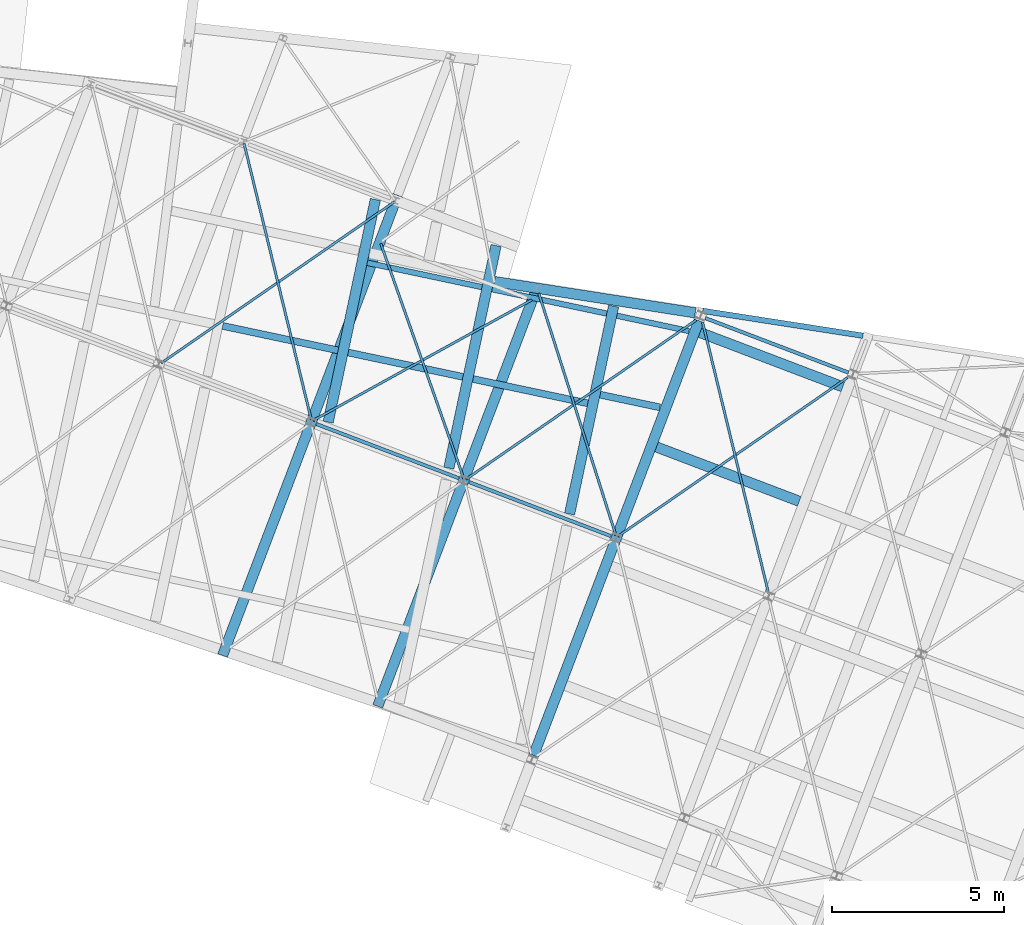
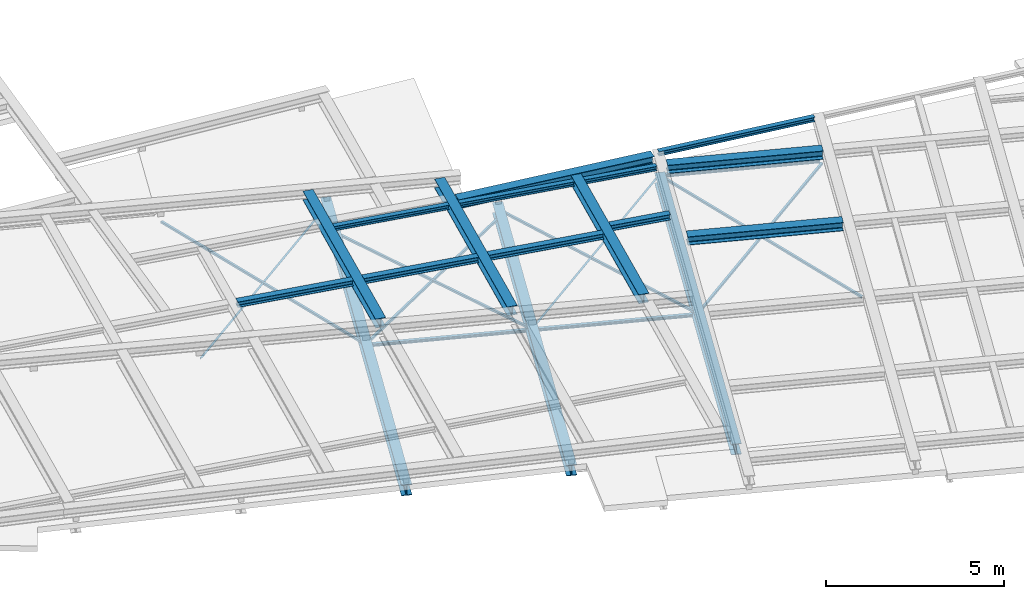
# One storey, part 12 of 21: 28 beams.
"""IFC2X3 building model written with IfcOpenShell, lengths in millimetres."""

from ifc_helpers import new_model, entity, si_unit, converted_unit, derived_unit, direction, frame, frame_2d, origin, place, context, subcontext, project, spatial, polyline, circle_curve, parameter, trimmed, segment, composite_curve, i_section, outline, extrude, material, type_object, element, save


model = new_model("IFC2X3")

# Units and contexts
model_context = context("Model", 3, precision=0.01, world=origin(), true_north=direction((6.123233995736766e-17, 1.0)))
body_context = subcontext(model_context, "Body", "Model", "MODEL_VIEW")
ifc_project = project(units=[si_unit("LENGTHUNIT", "METRE", prefix="MILLI"), converted_unit("PLANEANGLEUNIT", "DEGREE", entity("IfcPlaneAngleMeasure", 0.017453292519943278), si_unit("PLANEANGLEUNIT", "RADIAN"), dimensions=[0, 0, 0, 0, 0, 0, 0]), si_unit("AREAUNIT", "SQUARE_METRE"), derived_unit("THERMALTRANSMITTANCEUNIT", [(si_unit("MASSUNIT", "GRAM", prefix="KILO"), 1), (si_unit("THERMODYNAMICTEMPERATUREUNIT", "KELVIN"), -1), (si_unit("TIMEUNIT", "SECOND"), -3)])], contexts=[model_context])

# Site, building, storey
site_placement = place(None, frame((-72937.88054949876, 11621.45624098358, 0.0), z_axis=(0.0, 0.0, 1.0), x_axis=(0.9346418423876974, -0.35559053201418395, 0.0)))
site = spatial("IfcSite", under=ifc_project, at=site_placement, Name="Default", CompositionType="ELEMENT")
building_placement = place(site_placement, origin())
building = spatial("IfcBuilding", under=site, at=building_placement, CompositionType="ELEMENT")
storey_placement = place(building_placement, frame((0.0, 0.0, 4250.0)))
storey = spatial("IfcBuildingStorey", under=building, at=storey_placement, Name="01 eerste verdieping", CompositionType="ELEMENT", Elevation=4250.0)

# Beams
ifc_material_1 = material(Name="metaal_staal_generiek")
beam_type_1 = type_object("IfcBeamType", Name="DIE38", PredefinedType="BEAM")
beam_1_placement = place(storey_placement, frame((38650.0, 15000.0, -80.0), z_axis=(0.0, 0.0, 1.0), x_axis=(0.0, 1.0, 0.0)))
element("IfcBeam", 1, at=beam_1_placement, inside=storey, type_object=beam_type_1, material=ifc_material_1, Name="28.11_Stalen balk HEA", ObjectType="stalen balk HEA profiel", context=body_context, shape_type="SweptSolid", body=[
    extrude(i_section(OverallWidth=300.0000000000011, OverallDepth=369.9999999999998, WebThickness=11.00000000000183, FlangeThickness=19.000000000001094, FilletRadius=26.99999999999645, at=frame_2d((2.7000623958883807e-13, -4.334310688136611e-12), x_axis=(0.0, 1.0))), frame((137.69999999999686, 0.0, -185.0), z_axis=(1.0, 0.0, 0.0), x_axis=(0.0, 0.0, -1.0)), (0.0, 0.0, 1.0), 13484.6),
])
beam_2_placement = place(storey_placement, frame((33920.0, 14965.285956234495, -80.0), z_axis=(0.0, 0.0, 1.0), x_axis=(0.0, 1.0, 0.0)))
element("IfcBeam", 2, at=beam_2_placement, inside=storey, type_object=beam_type_1, material=ifc_material_1, Name="28.11_Stalen balk HEA", ObjectType="stalen balk HEA profiel", context=body_context, shape_type="SweptSolid", body=[
    extrude(i_section(OverallWidth=300.0000000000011, OverallDepth=369.9999999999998, WebThickness=11.00000000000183, FlangeThickness=19.000000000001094, FilletRadius=26.99999999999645, at=frame_2d((2.7000623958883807e-13, -4.334310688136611e-12), x_axis=(0.0, 1.0))), frame((-105.25813522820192, 0.0, -185.0), z_axis=(1.0, 0.0, 0.0), x_axis=(0.0, 0.0, -1.0)), (0.0, 0.0, 1.0), 13050.0),
])
beam_3_placement = place(storey_placement, frame((29190.0, 14732.700993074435, -80.0), z_axis=(0.0, 0.0, 1.0), x_axis=(0.0, 1.0, 0.0)))
element("IfcBeam", 3, at=beam_3_placement, inside=storey, type_object=beam_type_1, material=ifc_material_1, Name="28.11_Stalen balk HEA", ObjectType="stalen balk HEA profiel", context=body_context, shape_type="SweptSolid", body=[
    extrude(i_section(OverallWidth=300.0000000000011, OverallDepth=369.9999999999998, WebThickness=11.00000000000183, FlangeThickness=19.000000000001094, FilletRadius=26.99999999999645, at=frame_2d((2.7000623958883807e-13, -4.334310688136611e-12), x_axis=(0.0, 1.0))), frame((-93.95049653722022, 0.0, -185.0), z_axis=(1.0, 0.0, 0.0), x_axis=(0.0, 0.0, -1.0)), (0.0, 0.0, 1.0), 14281.200000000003),
])
beam_type_2 = type_object("IfcBeamType", Name="DIE10", PredefinedType="BEAM")
beam_4_placement = place(storey_placement, frame((38650.0, 28760.0, -80.0)))
element("IfcBeam", 4, at=beam_4_placement, inside=storey, type_object=beam_type_2, material=ifc_material_1, Name="28.11_Stalen balk HEA", ObjectType="stalen balk HEA profiel", context=body_context, shape_type="SweptSolid", body=[
    extrude(i_section(OverallWidth=99.99999999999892, OverallDepth=95.99999999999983, WebThickness=4.999999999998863, FlangeThickness=8.000000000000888, FilletRadius=12.000000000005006, at=frame_2d((1.623590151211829e-12, -6.497913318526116e-12), x_axis=(0.0, 1.0))), frame((142.70000000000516, 0.0, -218.0), z_axis=(1.0, 0.0, 0.0), x_axis=(0.0, 0.0, -1.0)), (0.0, 0.0, 1.0), 4444.599999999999),
])
for number, where, name in (
    (5, (29190.0, 21880.0, -80.0), "28.11_Stalen balk HEA"),
    (6, (33920.0, 21880.0, -80.0), "28.11_Stalen balk HEA"),
):
    element("IfcBeam", number, at=place(storey_placement, frame(where)), inside=storey, type_object=beam_type_2, material=ifc_material_1, Name=name, ObjectType="stalen balk HEA profiel", context=body_context, shape_type="SweptSolid", body=[
        extrude(i_section(OverallWidth=99.99999999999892, OverallDepth=95.99999999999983, WebThickness=4.999999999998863, FlangeThickness=8.000000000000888, FilletRadius=12.000000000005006, at=frame_2d((1.623590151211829e-12, 2.1671553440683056e-12), x_axis=(0.0, 1.0))), frame((162.70000000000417, 0.0, -218.0), z_axis=(1.0, 0.0, 0.0), x_axis=(0.0, 0.0, -1.0)), (0.0, 0.0, 1.0), 4404.600000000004),
    ])
beam_type_3 = type_object("IfcBeamType", Name="L70x7", PredefinedType="NOTDEFINED")
beam_5_placement = place(storey_placement, frame((43380.0, 28760.0, -270.0), z_axis=(0.0, 0.0, 1.0), x_axis=(-0.566528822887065, -0.8240419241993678, 0.0)))
element("IfcBeam", 7, at=beam_5_placement, inside=storey, type_object=beam_type_3, material=ifc_material_1, Name="28.11_SF_WVB-L-Gelijkzijdig:L70x7", ObjectType="28.11_SF_WVB-L-Gelijkzijdig:L70x7", context=body_context, shape_type="SweptSolid", body=[
    extrude(outline(composite_curve([segment(polyline([(-26.444444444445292, -43.55555555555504), (-23.944444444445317, -43.55555555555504)]), True, "CONTINUOUS"), segment(trimmed(circle_curve(frame_2d((-23.944444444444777, -39.05555555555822), x_axis=(0.0, -1.0)), 4.49999999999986), [parameter(0.0)], [parameter(90.00000000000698)], True, "PARAMETER"), True, "CONTINUOUS"), segment(polyline([(-19.444444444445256, -39.05555555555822), (-19.444444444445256, 10.444444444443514)]), True, "CONTINUOUS"), segment(trimmed(circle_curve(frame_2d((-10.444444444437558, 10.444444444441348), x_axis=(-1.0, 0.0)), 9.000000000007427), [parameter(270.0000000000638)], [parameter(0.0)], True, "PARAMETER"), False, "CONTINUOUS"), segment(polyline([(-10.444444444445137, 19.44444444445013), (39.05555555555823, 19.44444444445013)]), True, "CONTINUOUS"), segment(trimmed(circle_curve(frame_2d((39.05555555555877, 23.944444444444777), x_axis=(0.0, -1.0)), 4.499999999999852), [parameter(0.0)], [parameter(90.00000000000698)], True, "PARAMETER"), True, "CONTINUOUS"), segment(polyline([(43.55555555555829, 23.944444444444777), (43.55555555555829, 26.44444444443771)]), True, "CONTINUOUS"), segment(polyline([(43.55555555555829, 26.44444444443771), (-26.444444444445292, 26.44444444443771)]), True, "CONTINUOUS"), segment(polyline([(-26.444444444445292, 26.44444444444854), (-26.444444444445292, -43.55555555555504)]), True, "CONTINUOUS")], self_intersect=False)), frame((189.39488537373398, -6.744444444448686, -6.7444444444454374), z_axis=(1.0, 0.0, 0.0), x_axis=(0.0, 0.0, -1.0)), (0.0, 0.0, 1.0), 8091.700000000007),
])
beam_6_placement = place(storey_placement, frame((43380.0, 21880.0, -270.0), z_axis=(0.0, 0.0, 1.0), x_axis=(-0.5665288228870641, 0.8240419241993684, 0.0)))
element("IfcBeam", 8, at=beam_6_placement, inside=storey, type_object=beam_type_3, material=ifc_material_1, Name="28.11_SF_WVB-L-Gelijkzijdig:L70x7", ObjectType="28.11_SF_WVB-L-Gelijkzijdig:L70x7", context=body_context, shape_type="SweptSolid", body=[
    extrude(outline(composite_curve([segment(polyline([(-26.444444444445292, -43.5555555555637), (-23.944444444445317, -43.5555555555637)]), True, "CONTINUOUS"), segment(trimmed(circle_curve(frame_2d((-23.944444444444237, -39.05555555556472), x_axis=(0.0, -1.0)), 4.499999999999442), [parameter(0.0)], [parameter(90.00000000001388)], True, "PARAMETER"), True, "CONTINUOUS"), segment(polyline([(-19.444444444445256, -39.05555555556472), (-19.444444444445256, 10.444444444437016)]), True, "CONTINUOUS"), segment(trimmed(circle_curve(frame_2d((-10.444444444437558, 10.44444444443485), x_axis=(-1.0, 0.0)), 9.00000000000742), [parameter(270.0000000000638)], [parameter(0.0)], True, "PARAMETER"), False, "CONTINUOUS"), segment(polyline([(-10.444444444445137, 19.44444444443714), (39.05555555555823, 19.44444444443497)]), True, "CONTINUOUS"), segment(trimmed(circle_curve(frame_2d((39.05555555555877, 23.94444444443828), x_axis=(0.0, -1.0)), 4.499999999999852), [parameter(0.0)], [parameter(90.00000000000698)], True, "PARAMETER"), True, "CONTINUOUS"), segment(polyline([(43.55555555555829, 23.94444444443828), (43.55555555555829, 26.444444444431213)]), True, "CONTINUOUS"), segment(polyline([(43.55555555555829, 26.444444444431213), (-26.444444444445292, 26.444444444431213)]), True, "CONTINUOUS"), segment(polyline([(-26.444444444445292, 26.444444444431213), (-26.444444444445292, -43.5555555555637)]), True, "CONTINUOUS")], self_intersect=False)), frame((85.89488537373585, -6.744444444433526, -6.7444444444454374), z_axis=(1.0, 0.0, 0.0), x_axis=(0.0, 0.0, -1.0)), (0.0, 0.0, 1.0), 8086.500000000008),
])
beam_type_4 = type_object("IfcBeamType", Name="L70x7", PredefinedType="BEAM")
beam_7_placement = place(storey_placement, frame((38650.0, 21880.0, -270.0), z_axis=(0.0, 0.0, 1.0), x_axis=(-0.6226336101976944, 0.7825135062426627, 0.0)))
element("IfcBeam", 9, at=beam_7_placement, inside=storey, type_object=beam_type_4, material=ifc_material_1, Name="28.11_SF_WVB-L-Gelijkzijdig:L70x7", ObjectType="28.11_SF_WVB-L-Gelijkzijdig:L70x7", context=body_context, shape_type="SweptSolid", body=[
    extrude(outline(composite_curve([segment(polyline([(-26.444444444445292, -43.55555555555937), (-23.944444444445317, -43.55555555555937)]), True, "CONTINUOUS"), segment(trimmed(circle_curve(frame_2d((-23.94444444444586, -39.055555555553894), x_axis=(0.0, -1.0)), 4.500000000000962), [parameter(0.0)], [parameter(89.99999999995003)], True, "PARAMETER"), True, "CONTINUOUS"), segment(polyline([(-19.444444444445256, -39.055555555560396), (-19.444444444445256, 10.444444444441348)]), True, "CONTINUOUS"), segment(trimmed(circle_curve(frame_2d((-10.444444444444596, 10.444444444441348), x_axis=(-1.0, 0.0)), 9.000000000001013), [parameter(270.00000000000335)], [parameter(0.0)], True, "PARAMETER"), False, "CONTINUOUS"), segment(polyline([(-10.444444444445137, 19.444444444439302), (39.05555555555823, 19.444444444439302)]), True, "CONTINUOUS"), segment(trimmed(circle_curve(frame_2d((39.05555555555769, 23.944444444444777), x_axis=(0.0, -1.0)), 4.500000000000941), [parameter(0.0)], [parameter(89.99999999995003)], True, "PARAMETER"), True, "CONTINUOUS"), segment(polyline([(43.55555555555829, 23.944444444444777), (43.55555555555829, 26.44444444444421)]), True, "CONTINUOUS"), segment(polyline([(43.55555555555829, 26.44444444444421), (-26.444444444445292, 26.44444444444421)]), True, "CONTINUOUS"), segment(polyline([(-26.444444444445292, 26.44444444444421), (-26.444444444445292, -43.55555555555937)]), True, "CONTINUOUS")], self_intersect=False)), frame((80.68152207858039, -6.744444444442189, -6.7444444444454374), z_axis=(1.0, 0.0, 0.0), x_axis=(0.0, 0.0, -1.0)), (0.0, 0.0, 1.0), 7368.000000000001),
])
beam_8_placement = place(storey_placement, frame((33920.0, 21880.0, -270.0), z_axis=(0.0, 0.0, 1.0), x_axis=(0.5665288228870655, 0.8240419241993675, 0.0)))
element("IfcBeam", 10, at=beam_8_placement, inside=storey, type_object=beam_type_4, material=ifc_material_1, Name="28.11_SF_WVB-L-Gelijkzijdig:L70x7", ObjectType="28.11_SF_WVB-L-Gelijkzijdig:L70x7", context=body_context, shape_type="SweptSolid", body=[
    extrude(outline(composite_curve([segment(polyline([(-26.444444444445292, -43.555555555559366), (-23.944444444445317, -43.555555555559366)]), True, "CONTINUOUS"), segment(trimmed(circle_curve(frame_2d((-23.94444444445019, -39.055555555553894), x_axis=(0.0, -1.0)), 4.500000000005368), [parameter(0.0)], [parameter(89.99999999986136)], True, "PARAMETER"), True, "CONTINUOUS"), segment(polyline([(-19.444444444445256, -39.055555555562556), (-19.444444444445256, 10.444444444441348)]), True, "CONTINUOUS"), segment(trimmed(circle_curve(frame_2d((-10.44444444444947, 10.44444444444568), x_axis=(-1.0, 0.0)), 8.999999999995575), [parameter(269.9999999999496)], [parameter(0.0)], True, "PARAMETER"), False, "CONTINUOUS"), segment(polyline([(-10.444444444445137, 19.444444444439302), (39.05555555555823, 19.444444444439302)]), True, "CONTINUOUS"), segment(trimmed(circle_curve(frame_2d((39.055555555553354, 23.944444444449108), x_axis=(0.0, -1.0)), 4.500000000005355), [parameter(0.0)], [parameter(89.99999999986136)], True, "PARAMETER"), True, "CONTINUOUS"), segment(polyline([(43.55555555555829, 23.94444444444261), (43.55555555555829, 26.44444444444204)]), True, "CONTINUOUS"), segment(polyline([(43.55555555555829, 26.44444444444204), (-26.444444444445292, 26.44444444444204)]), True, "CONTINUOUS"), segment(polyline([(-26.444444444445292, 26.44444444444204), (-26.444444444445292, -43.555555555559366)]), True, "CONTINUOUS")], self_intersect=False)), frame((70.19488537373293, -6.744444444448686, -6.7444444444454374), z_axis=(1.0, 0.0, 0.0), x_axis=(0.0, 0.0, -1.0)), (0.0, 0.0, 1.0), 8113.600000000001),
])
beam_9_placement = place(storey_placement, frame((33920.0, 21880.0, -270.0), z_axis=(0.0, 0.0, 1.0), x_axis=(-0.6466160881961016, 0.7628155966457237, 0.0)))
element("IfcBeam", 11, at=beam_9_placement, inside=storey, type_object=beam_type_4, material=ifc_material_1, Name="28.11_SF_WVB-L-Gelijkzijdig:L70x7", ObjectType="28.11_SF_WVB-L-Gelijkzijdig:L70x7", context=body_context, shape_type="SweptSolid", body=[
    extrude(outline(composite_curve([segment(polyline([(-26.444444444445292, -43.55555555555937), (-23.944444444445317, -43.55555555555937)]), True, "CONTINUOUS"), segment(trimmed(circle_curve(frame_2d((-23.944444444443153, -39.055555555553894), x_axis=(0.0, -1.0)), 4.499999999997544), [parameter(0.0)], [parameter(90.00000000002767)], True, "PARAMETER"), True, "CONTINUOUS"), segment(polyline([(-19.444444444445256, -39.055555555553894), (-19.444444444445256, 10.444444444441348)]), True, "CONTINUOUS"), segment(trimmed(circle_curve(frame_2d((-10.44444444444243, 10.444444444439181), x_axis=(-1.0, 0.0)), 9.00000000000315), [parameter(270.00000000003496)], [parameter(0.0)], True, "PARAMETER"), False, "CONTINUOUS"), segment(polyline([(-10.444444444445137, 19.444444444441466), (39.05555555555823, 19.444444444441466)]), True, "CONTINUOUS"), segment(trimmed(circle_curve(frame_2d((39.055555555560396, 23.94444444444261), x_axis=(0.0, -1.0)), 4.499999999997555), [parameter(0.0)], [parameter(90.00000000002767)], True, "PARAMETER"), True, "CONTINUOUS"), segment(polyline([(43.55555555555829, 23.94444444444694), (43.55555555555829, 26.444444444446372)]), True, "CONTINUOUS"), segment(polyline([(43.55555555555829, 26.444444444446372), (-26.444444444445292, 26.444444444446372)]), True, "CONTINUOUS"), segment(polyline([(-26.444444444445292, 26.444444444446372), (-26.444444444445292, -43.55555555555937)]), True, "CONTINUOUS")], self_intersect=False)), frame((46.80256322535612, -6.744444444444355, -6.7444444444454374), z_axis=(1.0, 0.0, 0.0), x_axis=(0.0, 0.0, -1.0)), (0.0, 0.0, 1.0), 7220.0000000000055),
])
beam_10_placement = place(storey_placement, frame((24460.0, 21880.0, -270.0), z_axis=(0.0, 0.0, 1.0), x_axis=(0.5665288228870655, 0.8240419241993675, 0.0)))
element("IfcBeam", 12, at=beam_10_placement, inside=storey, type_object=beam_type_4, material=ifc_material_1, Name="28.11_SF_WVB-L-Gelijkzijdig:L70x7", ObjectType="28.11_SF_WVB-L-Gelijkzijdig:L70x7", context=body_context, shape_type="SweptSolid", body=[
    extrude(outline(composite_curve([segment(polyline([(-26.444444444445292, -43.555555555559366), (-23.944444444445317, -43.555555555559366)]), True, "CONTINUOUS"), segment(trimmed(circle_curve(frame_2d((-23.94444444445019, -39.05555555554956), x_axis=(0.0, -1.0)), 4.500000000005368), [parameter(0.0)], [parameter(89.99999999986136)], True, "PARAMETER"), True, "CONTINUOUS"), segment(polyline([(-19.444444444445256, -39.05555555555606), (-19.444444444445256, 10.444444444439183)]), True, "CONTINUOUS"), segment(trimmed(circle_curve(frame_2d((-10.44444444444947, 10.444444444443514), x_axis=(-1.0, 0.0)), 8.999999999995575), [parameter(269.9999999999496)], [parameter(0.0)], True, "PARAMETER"), False, "CONTINUOUS"), segment(polyline([(-10.444444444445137, 19.444444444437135), (39.05555555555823, 19.4444444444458)]), True, "CONTINUOUS"), segment(trimmed(circle_curve(frame_2d((39.055555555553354, 23.944444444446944), x_axis=(0.0, -1.0)), 4.500000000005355), [parameter(0.0)], [parameter(89.99999999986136)], True, "PARAMETER"), True, "CONTINUOUS"), segment(polyline([(43.55555555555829, 23.944444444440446), (43.55555555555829, 26.444444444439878)]), True, "CONTINUOUS"), segment(polyline([(43.55555555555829, 26.444444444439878), (-26.444444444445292, 26.444444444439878)]), True, "CONTINUOUS"), segment(polyline([(-26.444444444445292, 26.444444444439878), (-26.444444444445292, -43.555555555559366)]), True, "CONTINUOUS")], self_intersect=False)), frame((74.19488537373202, -6.744444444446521, -6.7444444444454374), z_axis=(1.0, 0.0, 0.0), x_axis=(0.0, 0.0, -1.0)), (0.0, 0.0, 1.0), 8224.500000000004),
])
beam_11_placement = place(storey_placement, frame((29190.0, 21880.0, -270.0), z_axis=(0.0, 0.0, 1.0), x_axis=(-0.5665288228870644, 0.8240419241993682, 0.0)))
element("IfcBeam", 13, at=beam_11_placement, inside=storey, type_object=beam_type_4, material=ifc_material_1, Name="28.11_SF_WVB-L-Gelijkzijdig:L70x7", ObjectType="28.11_SF_WVB-L-Gelijkzijdig:L70x7", context=body_context, shape_type="SweptSolid", body=[
    extrude(outline(composite_curve([segment(polyline([(-26.44444444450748, -43.55555555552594), (-23.944444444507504, -43.55555555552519)]), True, "CONTINUOUS"), segment(trimmed(circle_curve(frame_2d((-23.94444444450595, -39.05555555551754), x_axis=(0.0, -1.0)), 4.50000000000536), [parameter(0.0)], [parameter(89.99999999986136)], True, "PARAMETER"), True, "CONTINUOUS"), segment(polyline([(-19.444444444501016, -39.05555555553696), (-19.444444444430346, 10.444444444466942)]), True, "CONTINUOUS"), segment(trimmed(circle_curve(frame_2d((-10.444444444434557, 10.444444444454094), x_axis=(-1.0, 0.0)), 8.999999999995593), [parameter(269.9999999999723)], [parameter(0.0)], True, "PARAMETER"), False, "CONTINUOUS"), segment(polyline([(-10.444444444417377, 19.44444444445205), (39.05555555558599, 19.44444444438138)]), True, "CONTINUOUS"), segment(trimmed(circle_curve(frame_2d((39.05555555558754, 23.94444444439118), x_axis=(0.0, -1.0)), 4.500000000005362), [parameter(0.0)], [parameter(89.99999999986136)], True, "PARAMETER"), True, "CONTINUOUS"), segment(polyline([(43.55555555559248, 23.94444444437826), (43.55555555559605, 26.44444444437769)]), True, "CONTINUOUS"), segment(polyline([(43.55555555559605, 26.44444444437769), (-26.444444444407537, 26.444444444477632)]), True, "CONTINUOUS"), segment(polyline([(-26.444444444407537, 26.444444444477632), (-26.44444444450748, -43.555555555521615)]), True, "CONTINUOUS")], self_intersect=False)), frame((78.54488537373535, -6.744444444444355, -6.7444444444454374), z_axis=(1.0, 0.0, 0.0), x_axis=(0.0, 0.0, -1.0)), (0.0, 0.0, 1.0), 8241.800000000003),
])
beam_type_5 = type_object("IfcBeamType", Name="L70x7", PredefinedType="JOIST")
beam_12_placement = place(storey_placement, frame((33920.0, 27460.0, -270.0), z_axis=(0.0, 0.0, 1.0), x_axis=(-0.6466160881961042, -0.7628155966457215, 0.0)))
element("IfcBeam", 14, at=beam_12_placement, inside=storey, type_object=beam_type_5, material=ifc_material_1, Name="28.11_SF_WVB-L-Gelijkzijdig:L70x7", ObjectType="28.11_SF_WVB-L-Gelijkzijdig:L70x7", context=body_context, shape_type="SweptSolid", body=[
    extrude(outline(composite_curve([segment(polyline([(-26.444444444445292, -43.55555555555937), (-23.944444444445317, -43.55555555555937)]), True, "CONTINUOUS"), segment(trimmed(circle_curve(frame_2d((-23.944444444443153, -39.05555555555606), x_axis=(0.0, -1.0)), 4.4999999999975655), [parameter(0.0)], [parameter(90.00000000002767)], True, "PARAMETER"), True, "CONTINUOUS"), segment(polyline([(-19.444444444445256, -39.05555555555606), (-19.444444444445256, 10.444444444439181)]), True, "CONTINUOUS"), segment(trimmed(circle_curve(frame_2d((-10.444444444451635, 10.444444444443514), x_axis=(-1.0, 0.0)), 8.999999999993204), [parameter(269.99999999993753)], [parameter(0.0)], True, "PARAMETER"), False, "CONTINUOUS"), segment(polyline([(-10.444444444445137, 19.444444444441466), (39.05555555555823, 19.444444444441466)]), True, "CONTINUOUS"), segment(trimmed(circle_curve(frame_2d((39.055555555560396, 23.94444444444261), x_axis=(0.0, -1.0)), 4.49999999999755), [parameter(0.0)], [parameter(90.00000000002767)], True, "PARAMETER"), True, "CONTINUOUS"), segment(polyline([(43.55555555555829, 23.944444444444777), (43.55555555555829, 26.44444444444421)]), True, "CONTINUOUS"), segment(polyline([(43.55555555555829, 26.44444444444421), (-26.444444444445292, 26.44444444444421)]), True, "CONTINUOUS"), segment(polyline([(-26.444444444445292, 26.44444444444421), (-26.444444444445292, -43.55555555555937)]), True, "CONTINUOUS")], self_intersect=False)), frame((0.002563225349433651, -6.744444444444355, -6.7444444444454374), z_axis=(1.0, 0.0, 0.0), x_axis=(0.0, 0.0, -1.0)), (0.0, 0.0, 1.0), 7249.2000000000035),
])
ifc_material_2 = material(Name="metaal_staal_profiel_s235")
beam_type_6 = type_object("IfcBeamType", Name="HEA320", PredefinedType="BEAM")
beam_13_placement = place(storey_placement, frame((36160.93148834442, 28309.9672537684, 450.0), z_axis=(0.0, 0.0, 1.0), x_axis=(0.15393076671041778, -0.9880816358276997, 0.0)))
element("IfcBeam", 15, at=beam_13_placement, inside=storey, type_object=beam_type_6, material=ifc_material_2, Name="28.11_Stalen balk HEA", ObjectType="stalen balk HEA profiel", context=body_context, shape_type="SweptSolid", body=[
    extrude(i_section(OverallWidth=300.0000000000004, OverallDepth=309.9999999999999, WebThickness=8.99999999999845, FlangeThickness=15.500000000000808, FilletRadius=26.999999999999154, at=frame_2d((0.0, 2.1458390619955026e-12), x_axis=(0.0, 1.0))), frame((171.2131611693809, 0.0, -155.0), z_axis=(1.0, 0.0, 0.0), x_axis=(0.0, 0.0, -1.0)), (0.0, 0.0, 1.0), 6161.100000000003),
])
beam_14_placement = place(storey_placement, frame((32346.758835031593, 28756.362448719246, 450.0), z_axis=(0.0, 0.0, 1.0), x_axis=(0.15393076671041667, -0.9880816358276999, 0.0)))
element("IfcBeam", 16, at=beam_14_placement, inside=storey, type_object=beam_type_6, material=ifc_material_2, Name="28.11_Stalen balk HEA", ObjectType="stalen balk HEA profiel", context=body_context, shape_type="SweptSolid", body=[
    extrude(i_section(OverallWidth=300.0000000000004, OverallDepth=309.9999999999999, WebThickness=8.99999999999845, FlangeThickness=15.500000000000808, FilletRadius=26.999999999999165, at=frame_2d((5.542233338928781e-13, 6.423306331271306e-12), x_axis=(0.0, 1.0))), frame((187.62129847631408, 0.0, -155.0), z_axis=(1.0, 0.0, 0.0), x_axis=(0.0, 0.0, -1.0)), (0.0, 0.0, 1.0), 6598.800000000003),
])
beam_15_placement = place(storey_placement, frame((28601.56228762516, 28760.0, 450.0), z_axis=(0.0, 0.0, 1.0), x_axis=(0.1539307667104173, -0.9880816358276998, 0.0)))
element("IfcBeam", 17, at=beam_15_placement, inside=storey, type_object=beam_type_6, material=ifc_material_2, Name="28.11_Stalen balk HEA", ObjectType="stalen balk HEA profiel", context=body_context, shape_type="SweptSolid", body=[
    extrude(i_section(OverallWidth=299.99999999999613, OverallDepth=309.9999999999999, WebThickness=9.000000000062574, FlangeThickness=15.500000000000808, FilletRadius=26.999999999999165, at=frame_2d((0.0, 2.4726887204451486e-12), x_axis=(0.0, 1.0))), frame((187.89370989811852, 0.0, -155.0), z_axis=(1.0, 0.0, 0.0), x_axis=(0.0, 0.0, -1.0)), (0.0, 0.0, 1.0), 6599.9000000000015),
])
beam_16_placement = place(storey_placement, frame((32536.22139629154, 27540.202213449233, 450.0), z_axis=(0.0, 0.0, 1.0), x_axis=(0.9781855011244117, 0.20773330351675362, 0.0)))
element("IfcBeam", 18, at=beam_16_placement, inside=storey, type_object=beam_type_6, material=ifc_material_2, Name="28.11_Stalen balk HEA", ObjectType="stalen balk HEA profiel", context=body_context, shape_type="SweptSolid", body=[
    extrude(i_section(OverallWidth=299.9999999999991, OverallDepth=309.9999999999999, WebThickness=9.000000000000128, FlangeThickness=15.500000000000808, FilletRadius=26.999999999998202, at=frame_2d((0.0, 2.5579538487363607e-12), x_axis=(0.0, 1.0))), frame((171.16094022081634, 0.0, -155.0), z_axis=(1.0, 0.0, 0.0), x_axis=(0.0, 0.0, -1.0)), (0.0, 0.0, 1.0), 5893.7000000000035),
])
beam_type_7 = type_object("IfcBeamType", Name="HEA200", PredefinedType="BEAM")
beam_17_placement = place(storey_placement, frame((29323.99668322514, 24122.69340665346, 450.0), z_axis=(0.0, 0.0, 1.0), x_axis=(0.988081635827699, 0.15393076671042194, 0.0)))
element("IfcBeam", 19, at=beam_17_placement, inside=storey, type_object=beam_type_7, material=ifc_material_2, Name="28.11_Stalen balk HEA", ObjectType="stalen balk HEA profiel", context=body_context, shape_type="SweptSolid", body=[
    extrude(i_section(OverallWidth=200.0000000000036, OverallDepth=190.0000000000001, WebThickness=6.4999999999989, FlangeThickness=10.000000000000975, FilletRadius=18.00000000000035, at=frame_2d((5.400124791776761e-13, 6.750155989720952e-12), x_axis=(0.0, 1.0))), frame((150.2021490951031, 0.0, -95.0), z_axis=(1.0, 0.0, 0.0), x_axis=(0.0, 0.0, -1.0)), (0.0, 0.0, 1.0), 3399.600000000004),
])
beam_18_placement = place(storey_placement, frame((36635.800788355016, 25261.781080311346, 450.0), z_axis=(0.0, 0.0, 1.0), x_axis=(-0.9880816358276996, -0.15393076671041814, 0.0)))
element("IfcBeam", 20, at=beam_18_placement, inside=storey, type_object=beam_type_7, material=ifc_material_2, Name="28.11_Stalen balk HEA", ObjectType="stalen balk HEA profiel", context=body_context, shape_type="SweptSolid", body=[
    extrude(i_section(OverallWidth=199.9999999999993, OverallDepth=190.0000000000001, WebThickness=6.499999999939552, FlangeThickness=10.000000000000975, FilletRadius=18.00000000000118, at=frame_2d((5.400124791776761e-13, 2.1458390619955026e-12), x_axis=(0.0, 1.0))), frame((150.20214843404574, 0.0, -95.0), z_axis=(1.0, 0.0, 0.0), x_axis=(0.0, 0.0, -1.0)), (0.0, 0.0, 1.0), 3399.600000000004),
])
beam_19_placement = place(storey_placement, frame((29323.996683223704, 24122.693406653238, 450.0), z_axis=(0.0, 0.0, 1.0), x_axis=(-0.9880816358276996, -0.15393076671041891, 0.0)))
element("IfcBeam", 21, at=beam_19_placement, inside=storey, type_object=beam_type_7, material=ifc_material_2, Name="28.11_Stalen balk HEA", ObjectType="stalen balk HEA profiel", context=body_context, shape_type="SweptSolid", body=[
    extrude(i_section(OverallWidth=199.9999999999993, OverallDepth=190.0000000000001, WebThickness=6.499999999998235, FlangeThickness=10.000000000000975, FilletRadius=18.000000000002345, at=frame_2d((5.400124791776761e-13, 2.4797941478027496e-12), x_axis=(0.0, 1.0))), frame((149.9999999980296, 0.0, -95.0), z_axis=(1.0, 0.0, 0.0), x_axis=(0.0, 0.0, -1.0)), (0.0, 0.0, 1.0), 3420.0000000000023),
])
beam_20_placement = place(storey_placement, frame((36586.54564521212, 25577.949858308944, 450.0), z_axis=(0.0, 0.0, 1.0), x_axis=(0.9880816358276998, 0.15393076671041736, 0.0)))
element("IfcBeam", 22, at=beam_20_placement, inside=storey, type_object=beam_type_7, material=ifc_material_2, Name="28.11_Stalen balk HEA", ObjectType="stalen balk HEA profiel", context=body_context, shape_type="SweptSolid", body=[
    extrude(i_section(OverallWidth=199.9999999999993, OverallDepth=190.0000000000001, WebThickness=6.499999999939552, FlangeThickness=10.000000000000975, FilletRadius=18.0000000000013, at=frame_2d((8.100187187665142e-13, 2.1387336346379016e-12), x_axis=(0.0, 1.0))), frame((150.02199954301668, 0.0, -95.0), z_axis=(1.0, 0.0, 0.0), x_axis=(0.0, 0.0, -1.0)), (0.0, 0.0, 1.0), 1770.9000000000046),
])
beam_type_8 = type_object("IfcBeamType", Name="HEA300", PredefinedType="BEAM")
beam_21_placement = place(storey_placement, frame((43380.0, 28315.00012850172, 450.0), z_axis=(0.0, 0.0, 1.0), x_axis=(-1.0, 0.0, 0.0)))
element("IfcBeam", 23, at=beam_21_placement, inside=storey, type_object=beam_type_8, material=ifc_material_2, Name="28.11_Stalen balk HEA", ObjectType="stalen balk HEA profiel", context=body_context, shape_type="SweptSolid", body=[
    extrude(i_section(OverallWidth=299.99999999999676, OverallDepth=290.0000000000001, WebThickness=8.500000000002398, FlangeThickness=14.000000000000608, FilletRadius=26.999999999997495, at=frame_2d((0.0, -6.494360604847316e-12), x_axis=(0.0, 1.0))), frame((150.0, 0.0, -145.0), z_axis=(1.0, 0.0, 0.0), x_axis=(0.0, 0.0, -1.0)), (0.0, 0.0, 1.0), 4429.999999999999),
])
beam_22_placement = place(storey_placement, frame((43380.0, 24765.000128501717, 450.0), z_axis=(0.0, 0.0, 1.0), x_axis=(-1.0, 0.0, 0.0)))
element("IfcBeam", 24, at=beam_22_placement, inside=storey, type_object=beam_type_8, material=ifc_material_2, Name="28.11_Stalen balk HEA", ObjectType="stalen balk HEA profiel", context=body_context, shape_type="SweptSolid", body=[
    extrude(i_section(OverallWidth=299.99999999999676, OverallDepth=290.0000000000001, WebThickness=8.500000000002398, FlangeThickness=14.000000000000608, FilletRadius=26.999999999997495, at=frame_2d((0.0, -2.1600499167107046e-12), x_axis=(0.0, 1.0))), frame((150.0, 0.0, -145.0), z_axis=(1.0, 0.0, 0.0), x_axis=(0.0, 0.0, -1.0)), (0.0, 0.0, 1.0), 4429.999999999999),
])
beam_type_9 = type_object("IfcBeamType", Name="HEA160", PredefinedType="BEAM")
beam_23_placement = place(storey_placement, frame((43380.0, 29936.376059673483, 450.0), z_axis=(0.0, 0.0, 1.0), x_axis=(-0.9781586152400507, -0.20785986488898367, 0.0)))
element("IfcBeam", 25, at=beam_23_placement, inside=storey, type_object=beam_type_9, material=ifc_material_2, Name="28.11_Stalen balk HEA", ObjectType="stalen balk HEA profiel", context=body_context, shape_type="SweptSolid", body=[
    extrude(i_section(OverallWidth=159.9999999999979, OverallDepth=152.00000000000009, WebThickness=6.00000000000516, FlangeThickness=9.00000000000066, FilletRadius=15.000000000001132, at=frame_2d((8.100187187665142e-13, 2.1174173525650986e-12), x_axis=(0.0, 1.0))), frame((132.75828093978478, 0.0, -76.0), z_axis=(1.0, 0.0, 0.0), x_axis=(0.0, 0.0, -1.0)), (0.0, 0.0, 1.0), 4702.800000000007),
])
beam_24_placement = place(storey_placement, frame((28914.540843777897, 26750.990557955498, 450.0), z_axis=(0.0, 0.0, 1.0), x_axis=(0.988081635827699, 0.15393076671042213, 0.0)))
element("IfcBeam", 26, at=beam_24_placement, inside=storey, type_object=beam_type_9, material=ifc_material_2, Name="28.11_Stalen balk HEA", ObjectType="stalen balk HEA profiel", context=body_context, shape_type="SweptSolid", body=[
    extrude(i_section(OverallWidth=160.0000000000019, OverallDepth=152.00000000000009, WebThickness=6.000000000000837, FlangeThickness=9.00000000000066, FilletRadius=14.999999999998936, at=frame_2d((5.400124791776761e-13, -2.1316282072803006e-12), x_axis=(0.0, 1.0))), frame((150.0, 0.0, -76.0), z_axis=(1.0, 0.0, 0.0), x_axis=(0.0, 0.0, -1.0)), (0.0, 0.0, 1.0), 3400.000000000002),
])
beam_25_placement = place(storey_placement, frame((32570.442896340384, 27320.534394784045, 450.0), z_axis=(0.0, 0.0, 1.0), x_axis=(0.988081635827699, 0.15393076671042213, 0.0)))
element("IfcBeam", 27, at=beam_25_placement, inside=storey, type_object=beam_type_9, material=ifc_material_2, Name="28.11_Stalen balk HEA", ObjectType="stalen balk HEA profiel", context=body_context, shape_type="SweptSolid", body=[
    extrude(i_section(OverallWidth=160.0000000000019, OverallDepth=152.00000000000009, WebThickness=6.000000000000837, FlangeThickness=9.00000000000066, FilletRadius=14.999999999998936, at=frame_2d((5.400124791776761e-13, -2.1316282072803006e-12), x_axis=(0.0, 1.0))), frame((150.0, 0.0, -76.0), z_axis=(1.0, 0.0, 0.0), x_axis=(0.0, 0.0, -1.0)), (0.0, 0.0, 1.0), 3400.0000000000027),
])
beam_26_placement = place(storey_placement, frame((36226.34494890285, 27890.078231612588, 450.0), z_axis=(0.0, 0.0, 1.0), x_axis=(0.988081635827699, 0.15393076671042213, 0.0)))
element("IfcBeam", 28, at=beam_26_placement, inside=storey, type_object=beam_type_9, material=ifc_material_2, Name="28.11_Stalen balk HEA", ObjectType="stalen balk HEA profiel", context=body_context, shape_type="SweptSolid", body=[
    extrude(i_section(OverallWidth=160.0000000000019, OverallDepth=152.0000000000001, WebThickness=5.999999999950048, FlangeThickness=9.00000000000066, FilletRadius=14.999999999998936, at=frame_2d((5.471179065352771e-13, -2.1387336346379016e-12), x_axis=(0.0, 1.0))), frame((150.03506199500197, 0.0, -76.0), z_axis=(1.0, 0.0, 0.0), x_axis=(0.0, 0.0, -1.0)), (0.0, 0.0, 1.0), 2138.5000000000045),
])

save(model, "model.ifc")
